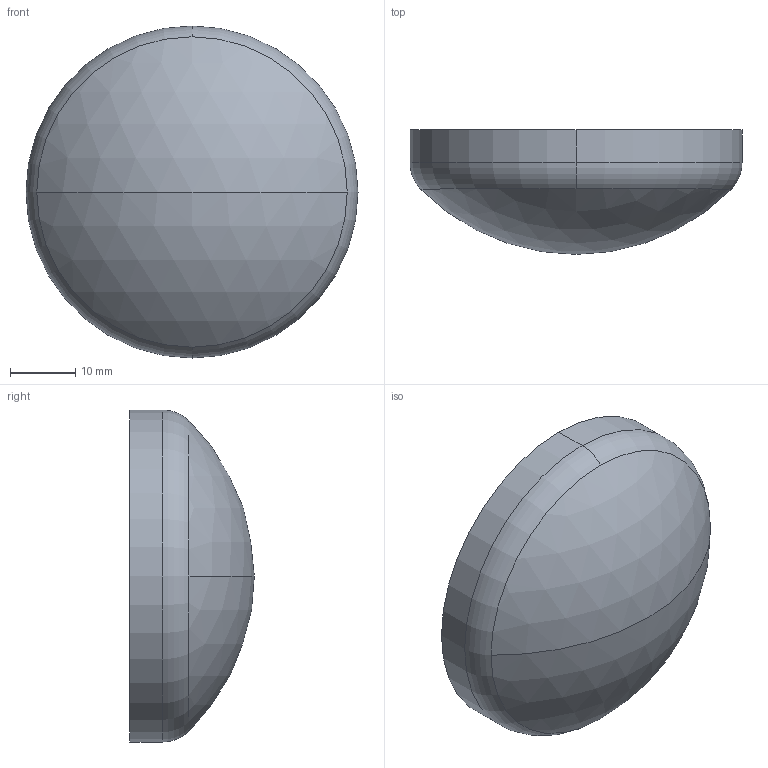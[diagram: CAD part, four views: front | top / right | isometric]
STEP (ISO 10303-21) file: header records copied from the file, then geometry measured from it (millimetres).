
FILE_DESCRIPTION (( 'STEP AP214' ), '1' );
FILE_NAME ('E16W 2.0 REV4.STEP', '2025-07-10T15:49:57', ( '' ), ( '' ), 'SwSTEP 2.0', 'SolidWorks 2022', '' );
FILE_SCHEMA (( 'AUTOMOTIVE_DESIGN' ));
Length unit declared in the file: inch
Products named in the file (1): E16W 2.0 REV4
Bounding box: 50.8 x 19.05 x 50.8 mm (x, y, z)
Volume: 5515.4 mm3; surface area: 6941.9 mm2
Topology: 1 solids, 1 shells, 13 faces, 28 edges, 18 vertices
Faces by surface type: cylinder 4, torus 4, sphere 4, plane 1
Entity records: 410 total; most frequent: DIRECTION 80, CARTESIAN_POINT 60, ORIENTED_EDGE 56, AXIS2_PLACEMENT_3D 38, EDGE_CURVE 28, CIRCLE 24, VERTEX_POINT 18, EDGE_LOOP 14
